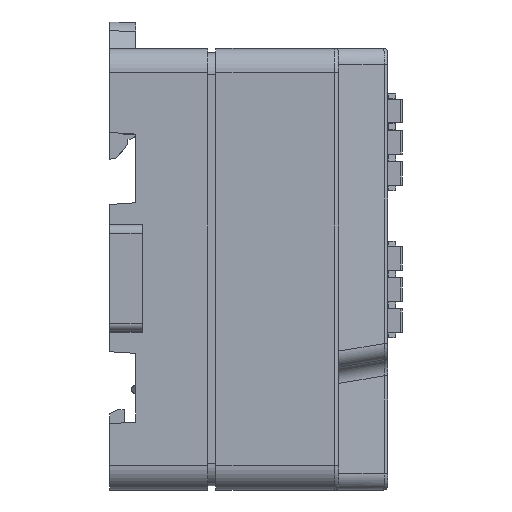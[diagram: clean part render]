
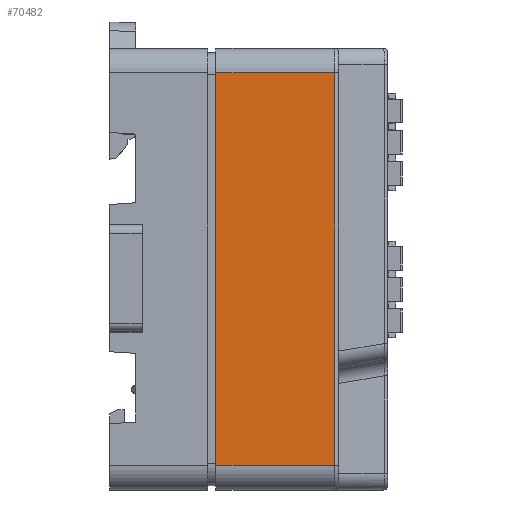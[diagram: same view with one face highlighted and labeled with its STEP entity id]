
A CAD part, front view. The second image highlights one B-rep face of the part: STEP entity #70482.
In plain terms, the highlighted planar face has unit normal (0, -1, 0).
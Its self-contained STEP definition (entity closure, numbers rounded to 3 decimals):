
#6468 = VERTEX_POINT ( 'NONE', #103576 ) ;
#10178 = CARTESIAN_POINT ( 'NONE',  ( 4.5, -60., -24. ) ) ;
#31533 = DIRECTION ( 'NONE',  ( 0., 0., 1. ) ) ;
#34701 = VECTOR ( 'NONE', #73850, 1000. ) ;
#38918 = VECTOR ( 'NONE', #243962, 1000. ) ;
#39939 = ORIENTED_EDGE ( 'NONE', *, *, #216657, .T. ) ;
#54668 = DIRECTION ( 'NONE',  ( 0., 0., -1. ) ) ;
#59631 = ORIENTED_EDGE ( 'NONE', *, *, #118302, .T. ) ;
#70482 = ADVANCED_FACE ( 'NONE', ( #169476 ), #246351, .T. ) ;
#73592 = CARTESIAN_POINT ( 'NONE',  ( -11., -60., 27. ) ) ;
#73850 = DIRECTION ( 'NONE',  ( -1., 0., 0. ) ) ;
#85835 = LINE ( 'NONE', #10178, #209814 ) ;
#99904 = CARTESIAN_POINT ( 'NONE',  ( -10., -60., 24. ) ) ;
#103023 = DIRECTION ( 'NONE',  ( 0., 0., 1. ) ) ;
#103576 = CARTESIAN_POINT ( 'NONE',  ( -10., -60., -24. ) ) ;
#118302 = EDGE_CURVE ( 'NONE', #176519, #191980, #85835, .T. ) ;
#146365 = EDGE_CURVE ( 'NONE', #6468, #176519, #184761, .T. ) ;
#157551 = ORIENTED_EDGE ( 'NONE', *, *, #178346, .F. ) ;
#167466 = VERTEX_POINT ( 'NONE', #99904 ) ;
#169476 = FACE_OUTER_BOUND ( 'NONE', #216218, .T. ) ;
#169716 = LINE ( 'NONE', #246622, #34701 ) ;
#176519 = VERTEX_POINT ( 'NONE', #226291 ) ;
#178346 = EDGE_CURVE ( 'NONE', #6468, #167466, #237921, .T. ) ;
#184761 = LINE ( 'NONE', #246454, #38918 ) ;
#191980 = VERTEX_POINT ( 'NONE', #233191 ) ;
#209814 = VECTOR ( 'NONE', #31533, 1000. ) ;
#211971 = VECTOR ( 'NONE', #103023, 1000. ) ;
#214579 = AXIS2_PLACEMENT_3D ( 'NONE', #73592, #227450, #54668 ) ;
#216218 = EDGE_LOOP ( 'NONE', ( #218714, #59631, #39939, #157551 ) ) ;
#216657 = EDGE_CURVE ( 'NONE', #191980, #167466, #169716, .T. ) ;
#218714 = ORIENTED_EDGE ( 'NONE', *, *, #146365, .T. ) ;
#226291 = CARTESIAN_POINT ( 'NONE',  ( 4.5, -60., -24. ) ) ;
#227450 = DIRECTION ( 'NONE',  ( 0., -1., 0. ) ) ;
#233191 = CARTESIAN_POINT ( 'NONE',  ( 4.5, -60., 24. ) ) ;
#237921 = LINE ( 'NONE', #240403, #211971 ) ;
#240403 = CARTESIAN_POINT ( 'NONE',  ( -10., -60., -24. ) ) ;
#243962 = DIRECTION ( 'NONE',  ( 1., 0., 0. ) ) ;
#246351 = PLANE ( 'NONE',  #214579 ) ;
#246454 = CARTESIAN_POINT ( 'NONE',  ( -10., -60., -24. ) ) ;
#246622 = CARTESIAN_POINT ( 'NONE',  ( 4.5, -60., 24. ) ) ;
